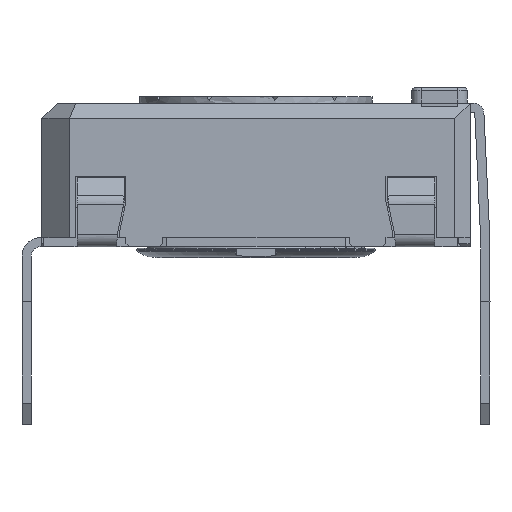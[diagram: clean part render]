
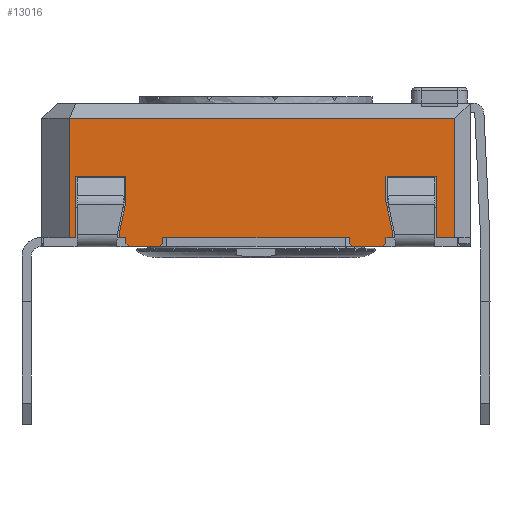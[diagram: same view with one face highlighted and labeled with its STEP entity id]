
A CAD part, left-side view. The second image highlights one B-rep face of the part: STEP entity #13016.
In plain terms, the highlighted planar face has unit normal (-1, 0, 0).
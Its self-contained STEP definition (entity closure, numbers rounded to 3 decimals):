
#1015=FACE_OUTER_BOUND('',#1707,.T.);
#1707=EDGE_LOOP('',(#10373,#10374,#10375,#10376,#10377,#10378,#10379,#10380,
#10381,#10382,#10383,#10384,#10385,#10386,#10387,#10388,#10389,#10390,#10391,
#10392,#10393,#10394,#10395,#10396,#10397,#10398,#10399,#10400));
#2713=LINE('',#19860,#4213);
#2719=LINE('',#19872,#4219);
#2722=LINE('',#19879,#4222);
#2727=LINE('',#19888,#4227);
#2747=LINE('',#19929,#4247);
#2761=LINE('',#19955,#4261);
#2765=LINE('',#19962,#4265);
#2780=LINE('',#19991,#4280);
#2783=LINE('',#19997,#4283);
#2788=LINE('',#20007,#4288);
#2791=LINE('',#20013,#4291);
#2794=LINE('',#20019,#4294);
#2812=LINE('',#20054,#4312);
#2824=LINE('',#20076,#4324);
#2827=LINE('',#20082,#4327);
#2864=LINE('',#20216,#4364);
#2872=LINE('',#20230,#4372);
#2881=LINE('',#20248,#4381);
#2886=LINE('',#20258,#4386);
#2888=LINE('',#20261,#4388);
#3012=LINE('',#20569,#4512);
#3014=LINE('',#20574,#4514);
#3017=LINE('',#20578,#4517);
#3019=LINE('',#20582,#4519);
#3022=LINE('',#20590,#4522);
#3023=LINE('',#20592,#4523);
#3024=LINE('',#20593,#4524);
#3025=LINE('',#20594,#4525);
#4213=VECTOR('',#15963,10.);
#4219=VECTOR('',#15971,10.);
#4222=VECTOR('',#15976,10.);
#4227=VECTOR('',#15983,10.);
#4247=VECTOR('',#16017,10.);
#4261=VECTOR('',#16031,10.);
#4265=VECTOR('',#16035,10.);
#4280=VECTOR('',#16062,10.);
#4283=VECTOR('',#16067,10.);
#4288=VECTOR('',#16074,10.);
#4291=VECTOR('',#16079,10.);
#4294=VECTOR('',#16084,10.);
#4312=VECTOR('',#16104,10.);
#4324=VECTOR('',#16118,10.);
#4327=VECTOR('',#16123,10.);
#4364=VECTOR('',#16204,10.);
#4372=VECTOR('',#16214,10.);
#4381=VECTOR('',#16225,10.);
#4386=VECTOR('',#16232,10.);
#4388=VECTOR('',#16236,10.);
#4512=VECTOR('',#16528,10.);
#4514=VECTOR('',#16532,10.);
#4517=VECTOR('',#16537,10.);
#4519=VECTOR('',#16543,10.);
#4522=VECTOR('',#16554,10.);
#4523=VECTOR('',#16555,10.);
#4524=VECTOR('',#16556,10.);
#4525=VECTOR('',#16557,10.);
#5611=VERTEX_POINT('',#19857);
#5612=VERTEX_POINT('',#19859);
#5616=VERTEX_POINT('',#19869);
#5618=VERTEX_POINT('',#19875);
#5620=VERTEX_POINT('',#19878);
#5623=VERTEX_POINT('',#19886);
#5648=VERTEX_POINT('',#19952);
#5649=VERTEX_POINT('',#19954);
#5651=VERTEX_POINT('',#19959);
#5652=VERTEX_POINT('',#19961);
#5659=VERTEX_POINT('',#19988);
#5661=VERTEX_POINT('',#19994);
#5665=VERTEX_POINT('',#20004);
#5667=VERTEX_POINT('',#20010);
#5670=VERTEX_POINT('',#20017);
#5686=VERTEX_POINT('',#20052);
#5695=VERTEX_POINT('',#20074);
#5697=VERTEX_POINT('',#20080);
#5724=VERTEX_POINT('',#20214);
#5729=VERTEX_POINT('',#20228);
#5736=VERTEX_POINT('',#20245);
#5740=VERTEX_POINT('',#20255);
#5814=VERTEX_POINT('',#20566);
#5815=VERTEX_POINT('',#20568);
#5816=VERTEX_POINT('',#20572);
#5817=VERTEX_POINT('',#20573);
#5818=VERTEX_POINT('',#20589);
#5819=VERTEX_POINT('',#20591);
#7119=EDGE_CURVE('',#5612,#5611,#2713,.T.);
#7125=EDGE_CURVE('',#5611,#5616,#2719,.T.);
#7128=EDGE_CURVE('',#5620,#5618,#2722,.T.);
#7133=EDGE_CURVE('',#5623,#5618,#2727,.T.);
#7153=EDGE_CURVE('',#5616,#5620,#2747,.T.);
#7167=EDGE_CURVE('',#5649,#5648,#2761,.T.);
#7171=EDGE_CURVE('',#5652,#5651,#2765,.T.);
#7187=EDGE_CURVE('',#5648,#5659,#2780,.T.);
#7190=EDGE_CURVE('',#5659,#5661,#2783,.T.);
#7195=EDGE_CURVE('',#5661,#5665,#2788,.T.);
#7198=EDGE_CURVE('',#5665,#5667,#2791,.T.);
#7201=EDGE_CURVE('',#5667,#5670,#2794,.T.);
#7219=EDGE_CURVE('',#5670,#5686,#2812,.T.);
#7231=EDGE_CURVE('',#5695,#5686,#2824,.T.);
#7234=EDGE_CURVE('',#5697,#5695,#2827,.T.);
#7283=EDGE_CURVE('',#5724,#5697,#2864,.T.);
#7291=EDGE_CURVE('',#5724,#5729,#2872,.T.);
#7300=EDGE_CURVE('',#5729,#5736,#2881,.T.);
#7305=EDGE_CURVE('',#5736,#5740,#2886,.T.);
#7307=EDGE_CURVE('',#5740,#5612,#2888,.T.);
#7447=EDGE_CURVE('',#5814,#5815,#3012,.T.);
#7449=EDGE_CURVE('',#5816,#5817,#3014,.T.);
#7452=EDGE_CURVE('',#5649,#5814,#3017,.T.);
#7454=EDGE_CURVE('',#5651,#5817,#3019,.T.);
#7457=EDGE_CURVE('',#5623,#5818,#3022,.T.);
#7458=EDGE_CURVE('',#5819,#5818,#3023,.T.);
#7459=EDGE_CURVE('',#5652,#5819,#3024,.T.);
#7460=EDGE_CURVE('',#5816,#5815,#3025,.T.);
#10373=ORIENTED_EDGE('',*,*,#7125,.T.);
#10374=ORIENTED_EDGE('',*,*,#7153,.T.);
#10375=ORIENTED_EDGE('',*,*,#7128,.T.);
#10376=ORIENTED_EDGE('',*,*,#7133,.F.);
#10377=ORIENTED_EDGE('',*,*,#7457,.T.);
#10378=ORIENTED_EDGE('',*,*,#7458,.F.);
#10379=ORIENTED_EDGE('',*,*,#7459,.F.);
#10380=ORIENTED_EDGE('',*,*,#7171,.T.);
#10381=ORIENTED_EDGE('',*,*,#7454,.T.);
#10382=ORIENTED_EDGE('',*,*,#7449,.F.);
#10383=ORIENTED_EDGE('',*,*,#7460,.T.);
#10384=ORIENTED_EDGE('',*,*,#7447,.F.);
#10385=ORIENTED_EDGE('',*,*,#7452,.F.);
#10386=ORIENTED_EDGE('',*,*,#7167,.T.);
#10387=ORIENTED_EDGE('',*,*,#7187,.T.);
#10388=ORIENTED_EDGE('',*,*,#7190,.T.);
#10389=ORIENTED_EDGE('',*,*,#7195,.T.);
#10390=ORIENTED_EDGE('',*,*,#7198,.T.);
#10391=ORIENTED_EDGE('',*,*,#7201,.T.);
#10392=ORIENTED_EDGE('',*,*,#7219,.T.);
#10393=ORIENTED_EDGE('',*,*,#7231,.F.);
#10394=ORIENTED_EDGE('',*,*,#7234,.F.);
#10395=ORIENTED_EDGE('',*,*,#7283,.F.);
#10396=ORIENTED_EDGE('',*,*,#7291,.T.);
#10397=ORIENTED_EDGE('',*,*,#7300,.T.);
#10398=ORIENTED_EDGE('',*,*,#7305,.T.);
#10399=ORIENTED_EDGE('',*,*,#7307,.T.);
#10400=ORIENTED_EDGE('',*,*,#7119,.T.);
#12191=PLANE('',#13896);
#13016=ADVANCED_FACE('',(#1015),#12191,.T.);
#13896=AXIS2_PLACEMENT_3D('',#20588,#16552,#16553);
#15963=DIRECTION('',(0.,0.208,-0.978));
#15971=DIRECTION('',(0.,0.,-1.));
#15976=DIRECTION('',(0.,0.,-1.));
#15983=DIRECTION('',(0.,0.707,0.707));
#16017=DIRECTION('',(0.,-1.,0.));
#16031=DIRECTION('',(0.,-1.,0.));
#16035=DIRECTION('',(0.,-1.,0.));
#16062=DIRECTION('',(0.,0.,1.));
#16067=DIRECTION('',(0.,0.208,0.978));
#16074=DIRECTION('',(0.,0.,1.));
#16079=DIRECTION('',(0.,-1.,0.));
#16084=DIRECTION('',(0.,0.,-1.));
#16104=DIRECTION('',(0.,-1.,0.));
#16118=DIRECTION('',(0.,0.,-1.));
#16123=DIRECTION('',(0.,-1.,0.));
#16204=DIRECTION('',(0.,0.,1.));
#16214=DIRECTION('',(0.,-1.,0.));
#16225=DIRECTION('',(0.,0.,1.));
#16232=DIRECTION('',(0.,-1.,0.));
#16236=DIRECTION('',(0.,0.,-1.));
#16528=DIRECTION('',(0.,0.707,-0.707));
#16532=DIRECTION('',(0.,0.707,0.707));
#16537=DIRECTION('',(0.,0.,-1.));
#16543=DIRECTION('',(0.,0.,-1.));
#16552=DIRECTION('center_axis',(-1.,0.,0.));
#16553=DIRECTION('ref_axis',(0.,0.,1.));
#16554=DIRECTION('',(0.,-1.,0.));
#16555=DIRECTION('',(0.,0.707,-0.707));
#16556=DIRECTION('',(0.,0.,-1.));
#16557=DIRECTION('',(0.,-1.,0.));
#19857=CARTESIAN_POINT('',(-14.467,1.552,0.235));
#19859=CARTESIAN_POINT('',(-14.467,1.352,1.176));
#19860=CARTESIAN_POINT('',(-14.467,1.228,1.757));
#19869=CARTESIAN_POINT('',(-14.467,1.552,0.));
#19872=CARTESIAN_POINT('',(-14.467,1.552,0.));
#19875=CARTESIAN_POINT('',(-14.467,1.352,-0.2));
#19878=CARTESIAN_POINT('',(-14.467,1.352,0.));
#19879=CARTESIAN_POINT('',(-14.467,1.352,0.));
#19886=CARTESIAN_POINT('',(-14.467,1.252,-0.3));
#19888=CARTESIAN_POINT('',(-14.467,-1.436,-2.988));
#19929=CARTESIAN_POINT('',(-14.467,4.102,0.));
#19952=CARTESIAN_POINT('',(-14.467,-7.348,0.));
#19954=CARTESIAN_POINT('',(-14.467,-7.148,0.));
#19955=CARTESIAN_POINT('',(-14.467,4.102,0.));
#19959=CARTESIAN_POINT('',(-14.467,-5.948,0.));
#19961=CARTESIAN_POINT('',(-14.467,0.152,0.));
#19962=CARTESIAN_POINT('',(-14.467,4.102,0.));
#19988=CARTESIAN_POINT('',(-14.467,-7.348,0.235));
#19991=CARTESIAN_POINT('',(-14.467,-7.348,0.118));
#19994=CARTESIAN_POINT('',(-14.467,-7.148,1.176));
#19997=CARTESIAN_POINT('',(-14.467,-7.453,-0.254));
#20004=CARTESIAN_POINT('',(-14.467,-7.148,2.));
#20007=CARTESIAN_POINT('',(-14.467,-7.148,0.588));
#20010=CARTESIAN_POINT('',(-14.467,-8.798,2.));
#20013=CARTESIAN_POINT('',(-14.467,-8.523,2.));
#20017=CARTESIAN_POINT('',(-14.467,-8.798,0.));
#20019=CARTESIAN_POINT('',(-14.467,-8.798,0.));
#20052=CARTESIAN_POINT('',(-14.467,-9.398,0.));
#20054=CARTESIAN_POINT('',(-14.467,-9.595,0.));
#20074=CARTESIAN_POINT('',(-14.467,-9.398,3.9));
#20076=CARTESIAN_POINT('',(-14.467,-9.398,0.));
#20080=CARTESIAN_POINT('',(-14.467,3.202,3.9));
#20082=CARTESIAN_POINT('',(-14.467,-6.398,3.9));
#20214=CARTESIAN_POINT('',(-14.467,3.202,0.));
#20216=CARTESIAN_POINT('',(-14.467,3.202,0.));
#20228=CARTESIAN_POINT('',(-14.467,3.002,0.));
#20230=CARTESIAN_POINT('',(-14.467,-2.985,0.));
#20245=CARTESIAN_POINT('',(-14.467,3.002,2.));
#20248=CARTESIAN_POINT('',(-14.467,3.002,0.));
#20255=CARTESIAN_POINT('',(-14.467,1.352,2.));
#20258=CARTESIAN_POINT('',(-14.467,-3.448,2.));
#20261=CARTESIAN_POINT('',(-14.467,1.352,1.));
#20566=CARTESIAN_POINT('',(-14.467,-7.148,-0.2));
#20568=CARTESIAN_POINT('',(-14.467,-7.048,-0.3));
#20569=CARTESIAN_POINT('',(-14.467,-7.861,0.513));
#20572=CARTESIAN_POINT('',(-14.467,-6.048,-0.3));
#20573=CARTESIAN_POINT('',(-14.467,-5.948,-0.2));
#20574=CARTESIAN_POINT('',(-14.467,-6.911,-1.163));
#20578=CARTESIAN_POINT('',(-14.467,-7.148,0.));
#20582=CARTESIAN_POINT('',(-14.467,-5.948,0.));
#20588=CARTESIAN_POINT('Origin',(-14.467,-9.898,0.));
#20589=CARTESIAN_POINT('',(-14.467,0.252,-0.3));
#20590=CARTESIAN_POINT('',(-14.467,0.152,-0.3));
#20591=CARTESIAN_POINT('',(-14.467,0.152,-0.2));
#20592=CARTESIAN_POINT('',(-14.467,-2.386,2.338));
#20593=CARTESIAN_POINT('',(-14.467,0.152,0.));
#20594=CARTESIAN_POINT('',(-14.467,-7.148,-0.3));
